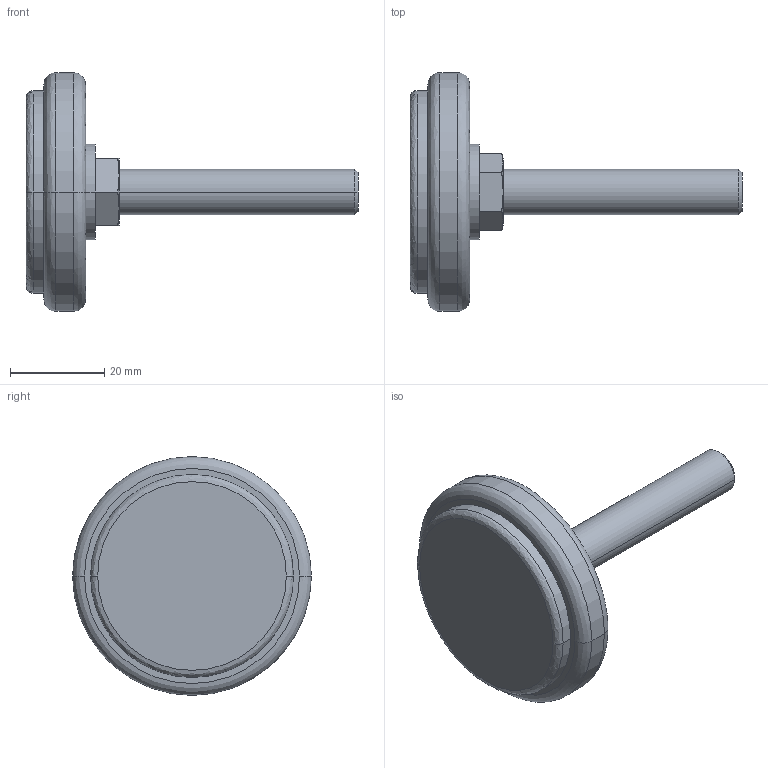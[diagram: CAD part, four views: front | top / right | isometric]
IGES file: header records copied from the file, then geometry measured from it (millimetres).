
Start section:  PTC IGES file: fse304s-part.igs
Global section: file name: fse304s-part.igs; native system: Pro/ENGINEER by Parametric Technology Corporation; preprocessor: 2002350; author: chant; organization: Unknown; date: 070618.095721; units: inch
Bounding box: 70.61 x 50.8 x 50.8 mm (x, y, z)
Surface area: 7448.8 mm2 (no closed solid volume)
Topology: 0 solids, 0 shells, 34 faces, 198 edges, 244 vertices
Faces by surface type: revolution 22, bspline 12
